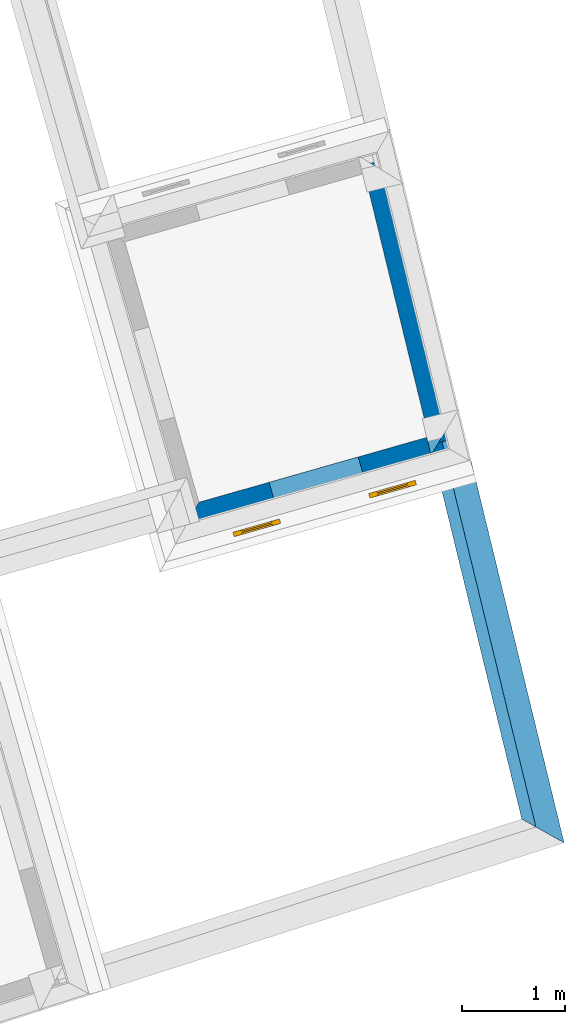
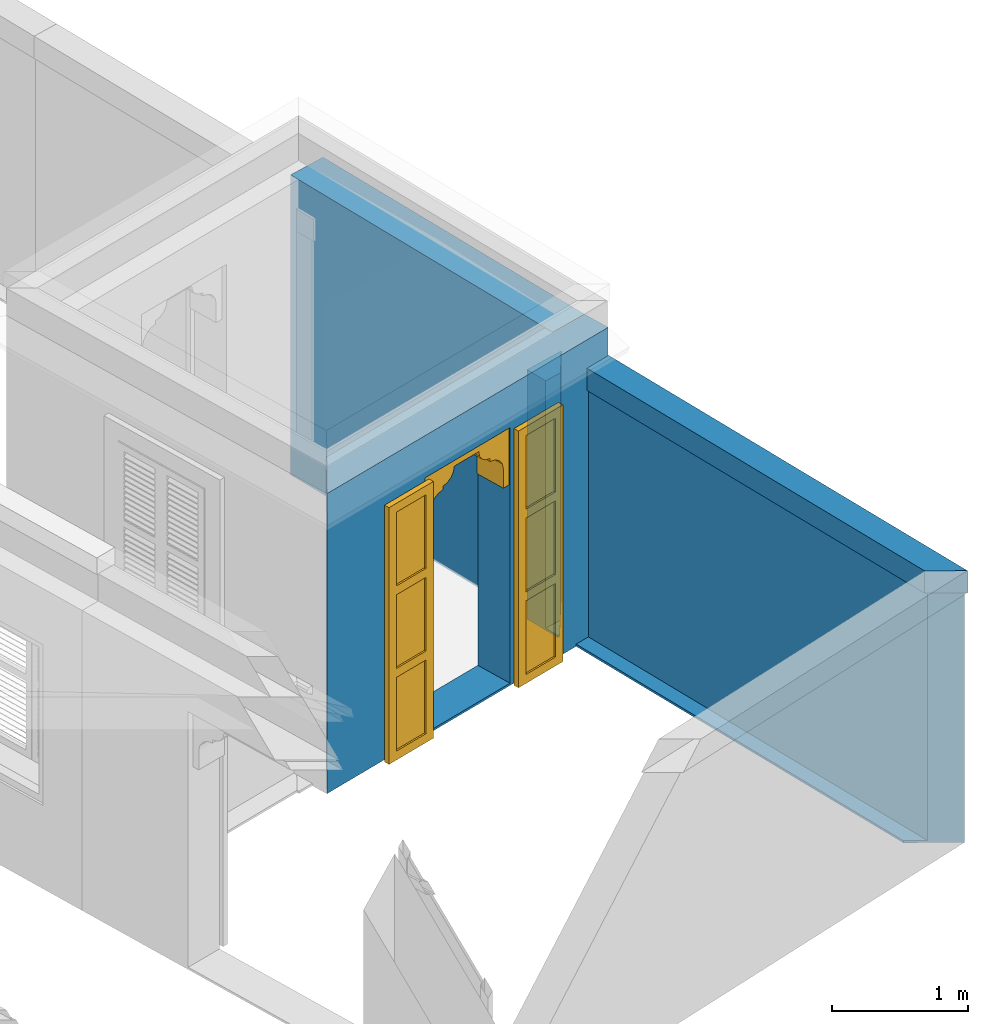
# One storey, part 6 of 13: 5 walls, 1 door, 1 opening.
"""IFC4 building model written with IfcOpenShell, lengths in metres."""

from ifc_helpers import new_model, si_unit, frame, origin, origin_with_axes, place, context, subcontext, project, spatial, polyline, outline, extrude, clip, halfspace, faceted_brep, source, transform, mapped, material, layer, layer_set, layer_usage, material_profile, profile_set, profile_usage, type_object, type_shapes, element, fill, save


model = new_model("IFC4")

# Units and contexts
model_context = context("Model", 3, world=origin_with_axes())
body_context = subcontext(model_context, "Body", "Model", "MODEL_VIEW")
ifc_project = project(units=[si_unit("PLANEANGLEUNIT", "RADIAN"), si_unit("MASSUNIT", "GRAM", prefix="KILO"), si_unit("FORCEUNIT", "NEWTON", prefix="KILO"), si_unit("LENGTHUNIT", "METRE"), si_unit("AREAUNIT", "SQUARE_METRE"), si_unit("VOLUMEUNIT", "CUBIC_METRE")], contexts=[model_context, model_context])

# Site, building, storey
site_placement = place(None, origin_with_axes())
site = spatial("IfcSite", under=ifc_project, at=site_placement, Name="Site plot-3", CompositionType="ELEMENT")
building_placement = place(None, origin_with_axes())
building = spatial("IfcBuilding", under=site, at=building_placement, Name="Building plot-3", CompositionType="ELEMENT")
storey_placement = place(None, frame((0.0, 0.0, 3.3), z_axis=(0.0, 0.0, 1.0), x_axis=(1.0, 0.0, 0.0)))
storey = spatial("IfcBuildingStorey", under=building, at=storey_placement, Name="plot-3 1", CompositionType="ELEMENT", Elevation=3.3)

# Wall, opening, door
ifc_material_1 = material(Name="Masonry")
ifc_layer_1 = layer(ifc_material_1, 0.33, ventilated=False)
ifc_layer_set_1 = layer_set([ifc_layer_1], Name="exterior_0.08_0.25")
ifc_layer_usage_1 = layer_usage(ifc_layer_set_1, "AXIS2", "POSITIVE", -0.25)
wall_type_1 = type_object("IfcWallType", Name="exterior_0.08_0.25", PredefinedType="SOLIDWALL", material=ifc_layer_set_1)
wall_1_placement = place(storey_placement, frame((14.0119539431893, 20.3860923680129, 0.0), z_axis=(0.0, 0.0, 1.0), x_axis=(0.961841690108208, 0.273606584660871, 0.0)))
wall_1 = element("IfcWall", 1, at=wall_1_placement, inside=storey, type_object=wall_type_1, material=ifc_layer_usage_1, Name="exterior", context=body_context, shape_type="SweptSolid", body=[
    extrude(outline(polyline([(0.0800000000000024, 0.0799999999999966), (-0.250000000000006, -0.249999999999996), (2.72842485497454, -0.249999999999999), (2.72842485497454, 0.0800000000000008), (0.0800000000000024, 0.0799999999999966)])), origin_with_axes(), (0.0, 0.0, 1.0), 2.7),
])
opening_placement = place(wall_1_placement, frame((0.789212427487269, 0.0, 0.02)))
opening = element("IfcOpeningElement", 2, at=opening_placement, cuts=wall_1, Name="My Opening", ObjectType="Opening", context=body_context, shape_type="SweptSolid", body=[
    extrude(outline(polyline([(0.0, -0.269999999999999), (0.900000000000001, -0.269999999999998), (0.900000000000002, 1.1), (6.66133814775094e-16, 1.1), (0.0, -0.269999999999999)])), origin_with_axes(), (0.0, 0.0, 1.0), 2.3),
])
door_type = type_object("IfcDoorType", Name="arch-900x2300", OperationType="SINGLE_SWING_LEFT", PredefinedType="NOTDEFINED")
shared_shape = source(origin(), body_context, "Body", "Brep", [
    faceted_brep([(-0.08, -0.02, 0.08), (-0.08, -0.02, 0.0), (-0.39, -0.02, 0.0), (-0.39, -0.02, 0.08), (-0.47, -0.02, 0.0), (-0.47, -0.02, 0.08), (-0.39, -0.035, 0.08), (-0.08, -0.035, 0.08), (0.0, -0.02, 0.08), (0.0, -0.02, 0.0), (-0.08, -0.066, 0.0), (-0.39, -0.066, 0.0), (-0.47, -0.066, 0.0), (-0.47, -0.066, 0.08), (-0.39, -0.02, 0.743333), (-0.47, -0.02, 0.743333), (-0.39, -0.035, 0.743333), (-0.08, -0.035, 0.743333), (-0.08, -0.02, 0.743333), (0.0, -0.02, 0.743333), (0.0, -0.066, 0.08), (0.0, -0.066, 0.0), (-0.39, -0.066, 0.08), (-0.08, -0.066, 0.08), (-0.47, -0.066, 0.743333), (-0.39, -0.02, 0.823333), (-0.47, -0.02, 0.823333), (0.0, -0.066, 0.743333), (0.0, -0.02, 0.823333), (-0.08, -0.02, 0.823333), (-0.08, -0.051, 0.08), (-0.39, -0.051, 0.08), (-0.39, -0.066, 0.743333), (-0.47, -0.066, 0.823333), (-0.39, -0.02, 1.486667), (-0.47, -0.02, 1.486667), (0.0, -0.066, 0.823333), (-0.08, -0.066, 0.743333), (0.0, -0.02, 1.486667), (-0.08, -0.02, 1.486667), (-0.08, -0.051, 0.743333), (-0.39, -0.051, 0.743333), (-0.39, -0.066, 0.823333), (-0.47, -0.066, 1.486667), (-0.39, -0.035, 0.823333), (-0.08, -0.035, 0.823333), (-0.39, -0.035, 1.486667), (-0.39, -0.02, 1.566667), (-0.47, -0.02, 1.566667), (0.0, -0.066, 1.486667), (-0.08, -0.066, 0.823333), (-0.08, -0.035, 1.486667), (0.0, -0.02, 1.566667), (-0.08, -0.02, 1.566667), (-0.39, -0.066, 1.486667), (-0.47, -0.066, 1.566667), (-0.39, -0.02, 2.23), (-0.47, -0.02, 2.23), (0.0, -0.066, 1.566667), (-0.08, -0.066, 1.486667), (0.0, -0.02, 2.23), (-0.08, -0.02, 2.23), (-0.08, -0.051, 0.823333), (-0.39, -0.051, 0.823333), (-0.39, -0.051, 1.486667), (-0.39, -0.066, 1.566667), (-0.47, -0.066, 2.23), (-0.39, -0.035, 1.566667), (-0.08, -0.035, 1.566667), (-0.39, -0.035, 2.23), (-0.39, -0.02, 2.31), (-0.47, -0.02, 2.31), (0.0, -0.066, 2.23), (-0.08, -0.066, 1.566667), (-0.08, -0.051, 1.486667), (-0.08, -0.035, 2.23), (0.0, -0.02, 2.31), (-0.08, -0.02, 2.31), (-0.39, -0.066, 2.23), (-0.47, -0.066, 2.31), (-0.39, -0.066, 2.31), (0.0, -0.066, 2.31), (-0.08, -0.066, 2.23), (-0.08, -0.066, 2.31), (-0.08, -0.051, 1.566667), (-0.39, -0.051, 1.566667), (-0.39, -0.051, 2.23), (-0.08, -0.051, 2.23), (1.29, -0.02, 0.08), (1.29, -0.02, 0.0), (0.98, -0.02, 0.0), (0.98, -0.02, 0.08), (1.37, -0.02, 0.08), (1.37, -0.02, 0.0), (0.98, -0.035, 0.08), (1.29, -0.035, 0.08), (0.9, -0.02, 0.0), (0.9, -0.02, 0.08), (1.29, -0.066, 0.0), (0.98, -0.066, 0.0), (1.37, -0.066, 0.08), (1.37, -0.066, 0.0), (1.37, -0.02, 0.743333), (1.29, -0.02, 0.743333), (1.29, -0.035, 0.743333), (0.98, -0.035, 0.743333), (0.98, -0.02, 0.743333), (0.9, -0.02, 0.743333), (0.9, -0.066, 0.0), (0.9, -0.066, 0.08), (0.98, -0.066, 0.08), (1.29, -0.066, 0.08), (1.37, -0.066, 0.743333), (1.37, -0.02, 0.823333), (1.29, -0.02, 0.823333), (0.9, -0.066, 0.743333), (0.98, -0.02, 0.823333), (0.9, -0.02, 0.823333), (1.29, -0.051, 0.08), (0.98, -0.051, 0.08), (1.29, -0.066, 0.743333), (1.37, -0.066, 0.823333), (1.37, -0.02, 1.486667), (1.29, -0.02, 1.486667), (0.9, -0.066, 0.823333), (0.98, -0.066, 0.743333), (0.98, -0.02, 1.486667), (0.9, -0.02, 1.486667), (0.98, -0.051, 0.743333), (1.29, -0.051, 0.743333), (1.29, -0.066, 0.823333), (1.37, -0.066, 1.486667), (0.98, -0.035, 0.823333), (1.29, -0.035, 0.823333), (1.29, -0.035, 1.486667), (1.37, -0.02, 1.566667), (1.29, -0.02, 1.566667), (0.9, -0.066, 1.486667), (0.98, -0.066, 0.823333), (0.98, -0.035, 1.486667), (0.98, -0.02, 1.566667), (0.9, -0.02, 1.566667), (1.29, -0.066, 1.486667), (1.37, -0.066, 1.566667), (1.37, -0.02, 2.23), (1.29, -0.02, 2.23), (0.9, -0.066, 1.566667), (0.98, -0.066, 1.486667), (0.98, -0.02, 2.23), (0.9, -0.02, 2.23), (1.29, -0.051, 0.823333), (0.98, -0.051, 0.823333), (1.29, -0.051, 1.486667), (1.29, -0.066, 1.566667), (1.37, -0.066, 2.23), (0.98, -0.035, 1.566667), (1.29, -0.035, 1.566667), (1.29, -0.035, 2.23), (1.37, -0.02, 2.31), (1.29, -0.02, 2.31), (0.9, -0.066, 2.23), (0.98, -0.066, 1.566667), (0.98, -0.051, 1.486667), (0.98, -0.035, 2.23), (0.98, -0.02, 2.31), (0.9, -0.02, 2.31), (1.29, -0.066, 2.23), (1.37, -0.066, 2.31), (1.29, -0.066, 2.31), (0.9, -0.066, 2.31), (0.98, -0.066, 2.23), (0.98, -0.066, 2.31), (1.29, -0.051, 1.566667), (0.98, -0.051, 1.566667), (1.29, -0.051, 2.23), (0.98, -0.051, 2.23), (0.9, 0.03, 1.78), (0.9, 0.03, 1.95), (0.84, 0.03, 1.95), (0.84, 0.03, 1.78), (0.84, 0.3, 1.95), (0.84, 0.3, 1.78), (0.9, 0.03, 2.12), (0.829, 0.03, 2.004), (0.9, 0.3, 1.78), (0.9, 0.3, 1.95), (0.829, 0.3, 2.004), (0.799, 0.03, 2.049), (0.9, 0.3, 2.12), (0.799, 0.3, 2.049), (0.754, 0.03, 2.079), (0.9, 0.3, 2.29), (0.9, 0.03, 2.29), (0.754, 0.3, 2.079), (0.7, 0.03, 2.09), (0.7, 0.03, 2.12), (0.654, 0.03, 2.129), (0.58, 0.3, 2.29), (0.58, 0.03, 2.29), (0.7, 0.3, 2.12), (0.654, 0.3, 2.129), (0.7, 0.3, 2.09), (0.615, 0.03, 2.155), (0.589, 0.3, 2.194), (0.58, 0.3, 2.24), (0.58, 0.03, 2.24), (0.589, 0.03, 2.194), (0.615, 0.3, 2.155), (0.06, 0.03, 1.78), (0.06, 0.03, 1.95), (0.0, 0.03, 1.95), (0.0, 0.03, 1.78), (0.06, 0.3, 1.78), (0.06, 0.3, 1.95), (0.071, 0.03, 2.004), (0.0, 0.03, 2.12), (0.0, 0.3, 1.95), (0.0, 0.3, 1.78), (0.071, 0.3, 2.004), (0.101, 0.03, 2.049), (0.0, 0.3, 2.12), (0.101, 0.3, 2.049), (0.146, 0.03, 2.079), (0.0, 0.03, 2.29), (0.0, 0.3, 2.29), (0.146, 0.3, 2.079), (0.2, 0.03, 2.12), (0.2, 0.03, 2.09), (0.246, 0.03, 2.129), (0.32, 0.03, 2.29), (0.32, 0.3, 2.29), (0.246, 0.3, 2.129), (0.2, 0.3, 2.12), (0.2, 0.3, 2.09), (0.285, 0.03, 2.155), (0.32, 0.3, 2.24), (0.311, 0.3, 2.194), (0.311, 0.03, 2.194), (0.32, 0.03, 2.24), (0.285, 0.3, 2.155)], [[[0, 1, 2, 3]], [[4, 5, 3, 2]], [[0, 3, 6, 7]], [[1, 0, 8, 9]], [[2, 1, 10, 11]], [[5, 4, 12, 13]], [[14, 3, 5, 15]], [[4, 2, 11, 12]], [[3, 14, 16, 6]], [[6, 16, 17, 7]], [[18, 0, 7, 17]], [[0, 18, 19, 8]], [[9, 8, 20, 21]], [[1, 9, 21, 10]], [[22, 11, 10, 23]], [[13, 12, 11, 22]], [[15, 5, 13, 24]], [[25, 14, 15, 26]], [[14, 18, 17, 16]], [[8, 19, 27, 20]], [[28, 19, 18, 29]], [[23, 10, 21, 20]], [[22, 23, 30, 31]], [[22, 32, 24, 13]], [[26, 15, 24, 33]], [[29, 18, 14, 25]], [[34, 25, 26, 35]], [[19, 28, 36, 27]], [[20, 27, 37, 23]], [[38, 28, 29, 39]], [[23, 37, 40, 30]], [[41, 31, 30, 40]], [[32, 22, 31, 41]], [[32, 42, 33, 24]], [[35, 26, 33, 43]], [[29, 25, 44, 45]], [[25, 34, 46, 44]], [[47, 34, 35, 48]], [[28, 38, 49, 36]], [[27, 36, 50, 37]], [[39, 29, 45, 51]], [[52, 38, 39, 53]], [[37, 32, 41, 40]], [[37, 50, 42, 32]], [[42, 54, 43, 33]], [[48, 35, 43, 55]], [[44, 46, 51, 45]], [[34, 39, 51, 46]], [[34, 47, 53, 39]], [[56, 47, 48, 57]], [[38, 52, 58, 49]], [[36, 49, 59, 50]], [[60, 52, 53, 61]], [[42, 50, 62, 63]], [[54, 42, 63, 64]], [[54, 65, 55, 43]], [[57, 48, 55, 66]], [[53, 47, 67, 68]], [[47, 56, 69, 67]], [[70, 56, 57, 71]], [[52, 60, 72, 58]], [[49, 58, 73, 59]], [[50, 59, 74, 62]], [[61, 53, 68, 75]], [[76, 60, 61, 77]], [[64, 63, 62, 74]], [[59, 54, 64, 74]], [[65, 54, 59, 73]], [[65, 78, 66, 55]], [[71, 57, 66, 79]], [[67, 69, 75, 68]], [[56, 61, 75, 69]], [[77, 61, 56, 70]], [[70, 71, 79, 80]], [[60, 76, 81, 72]], [[58, 72, 82, 73]], [[76, 77, 83, 81]], [[65, 73, 84, 85]], [[78, 65, 85, 86]], [[78, 80, 79, 66]], [[77, 70, 80, 83]], [[72, 81, 83, 82]], [[73, 82, 87, 84]], [[86, 85, 84, 87]], [[82, 78, 86, 87]], [[82, 83, 80, 78]], [[88, 89, 90, 91]], [[89, 88, 92, 93]], [[94, 95, 88, 91]], [[96, 97, 91, 90]], [[98, 99, 90, 89]], [[100, 101, 93, 92]], [[102, 92, 88, 103]], [[101, 98, 89, 93]], [[95, 104, 103, 88]], [[94, 105, 104, 95]], [[105, 94, 91, 106]], [[97, 107, 106, 91]], [[108, 109, 97, 96]], [[99, 108, 96, 90]], [[110, 99, 98, 111]], [[111, 98, 101, 100]], [[112, 100, 92, 102]], [[113, 102, 103, 114]], [[104, 105, 106, 103]], [[109, 115, 107, 97]], [[116, 106, 107, 117]], [[109, 108, 99, 110]], [[118, 119, 110, 111]], [[100, 112, 120, 111]], [[121, 112, 102, 113]], [[114, 103, 106, 116]], [[122, 113, 114, 123]], [[115, 124, 117, 107]], [[110, 125, 115, 109]], [[126, 116, 117, 127]], [[119, 128, 125, 110]], [[128, 119, 118, 129]], [[129, 118, 111, 120]], [[112, 121, 130, 120]], [[131, 121, 113, 122]], [[132, 133, 114, 116]], [[133, 134, 123, 114]], [[135, 122, 123, 136]], [[124, 137, 127, 117]], [[125, 138, 124, 115]], [[139, 132, 116, 126]], [[140, 126, 127, 141]], [[128, 129, 120, 125]], [[120, 130, 138, 125]], [[121, 131, 142, 130]], [[143, 131, 122, 135]], [[132, 139, 134, 133]], [[134, 139, 126, 123]], [[126, 140, 136, 123]], [[144, 135, 136, 145]], [[137, 146, 141, 127]], [[138, 147, 137, 124]], [[148, 140, 141, 149]], [[150, 151, 138, 130]], [[152, 150, 130, 142]], [[131, 143, 153, 142]], [[154, 143, 135, 144]], [[155, 156, 136, 140]], [[156, 157, 145, 136]], [[158, 144, 145, 159]], [[146, 160, 149, 141]], [[147, 161, 146, 137]], [[151, 162, 147, 138]], [[163, 155, 140, 148]], [[164, 148, 149, 165]], [[162, 151, 150, 152]], [[162, 152, 142, 147]], [[161, 147, 142, 153]], [[143, 154, 166, 153]], [[167, 154, 144, 158]], [[155, 163, 157, 156]], [[157, 163, 148, 145]], [[159, 145, 148, 164]], [[168, 167, 158, 159]], [[160, 169, 165, 149]], [[161, 170, 160, 146]], [[169, 171, 164, 165]], [[172, 173, 161, 153]], [[174, 172, 153, 166]], [[154, 167, 168, 166]], [[171, 168, 159, 164]], [[170, 171, 169, 160]], [[173, 175, 170, 161]], [[175, 173, 172, 174]], [[175, 174, 166, 170]], [[166, 168, 171, 170]], [[176, 177, 178, 179]], [[180, 181, 179, 178]], [[177, 182, 183, 178]], [[177, 176, 184, 185]], [[181, 184, 176, 179]], [[181, 180, 185, 184]], [[186, 180, 178, 183]], [[182, 187, 183]], [[182, 177, 185, 188]], [[180, 186, 188, 185]], [[189, 186, 183, 187]], [[182, 190, 187]], [[188, 191, 192, 182]], [[188, 186, 189]], [[193, 189, 187, 190]], [[194, 190, 182, 195]], [[182, 192, 196, 195]], [[192, 191, 197, 198]], [[199, 200, 191, 188]], [[188, 189, 193]], [[201, 193, 190, 194]], [[199, 201, 194, 195]], [[200, 199, 195, 196]], [[192, 202, 196]], [[191, 203, 204, 197]], [[192, 198, 205, 206]], [[207, 191, 200]], [[199, 188, 193, 201]], [[207, 200, 196, 202]], [[192, 206, 202]], [[204, 203, 206, 205]], [[203, 191, 207]], [[203, 207, 202, 206]], [[208, 209, 210, 211]], [[209, 208, 212, 213]], [[209, 214, 215, 210]], [[211, 210, 216, 217]], [[208, 211, 217, 212]], [[217, 216, 213, 212]], [[214, 209, 213, 218]], [[214, 219, 215]], [[220, 216, 210, 215]], [[216, 220, 218, 213]], [[219, 214, 218, 221]], [[219, 222, 215]], [[215, 223, 224, 220]], [[221, 218, 220]], [[222, 219, 221, 225]], [[226, 215, 222, 227]], [[226, 228, 223, 215]], [[229, 230, 224, 223]], [[220, 224, 231, 232]], [[225, 221, 220]], [[227, 222, 225, 233]], [[226, 227, 233, 232]], [[228, 226, 232, 231]], [[228, 234, 223]], [[230, 235, 236, 224]], [[237, 238, 229, 223]], [[231, 224, 239]], [[233, 225, 220, 232]], [[234, 228, 231, 239]], [[234, 237, 223]], [[238, 237, 236, 235]], [[239, 224, 236]], [[237, 234, 239, 236]], [[238, 235, 204, 205]], [[235, 230, 197, 204]], [[229, 238, 205, 198]], [[230, 229, 198, 197]]]),
])
type_shapes(door_type, [shared_shape])
door_placement = place(storey_placement, frame((14.8449251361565, 20.3423288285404, 0.02), z_axis=(0.0, 0.0, 1.0), x_axis=(0.865657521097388, 0.246245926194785, 0.0)))
door = element("IfcDoor", 3, at=door_placement, inside=storey, type_object=door_type, Name="circulation sahn door", OverallHeight=2.3, OverallWidth=0.9, context=body_context, shape_type="MappedRepresentation", body=[
    mapped(shared_shape, transform((0.0, 0.0, 0.0), scale=1.0)),
])
fill(opening, door)

# Walls
ifc_material_2 = material(Name="Masonry")
ifc_layer_2 = layer(ifc_material_2, 0.33, ventilated=False)
ifc_layer_set_2 = layer_set([ifc_layer_2], Name="party_0.08_0.25")
ifc_layer_usage_2 = layer_usage(ifc_layer_set_2, "AXIS2", "POSITIVE", -0.25)
wall_type_2 = type_object("IfcWallType", Name="party_0.08_0.25", PredefinedType="SOLIDWALL", material=ifc_layer_set_2)
wall_2_placement = place(storey_placement, frame((16.3958062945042, 21.0642057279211, 0.0), z_axis=(0.0, 0.0, 1.0), x_axis=(-0.236608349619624, 0.97160510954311, 0.0)))
element("IfcWall", 4, at=wall_2_placement, inside=storey, type_object=wall_type_2, material=ifc_layer_usage_2, Name="party", context=body_context, shape_type="SweptSolid", body=[
    extrude(outline(polyline([(1.39045692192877e-15, 0.0799999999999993), (1.79166492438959e-15, -0.249999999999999), (2.79305572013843, -0.250000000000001), (2.79305572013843, 0.0799999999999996), (1.39045692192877e-15, 0.0799999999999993)])), origin_with_axes(), (0.0, 0.0, 1.0), 2.7),
])
ifc_material_profile_1 = material_profile(None, outline(polyline([(0.25, 0.0), (0.25, 2.245), (0.05, 2.245), (0.05, 0.02), (-0.08, 0.02), (-0.08, 0.0), (0.25, 0.0)])))
ifc_profile_set_1 = profile_set([ifc_material_profile_1])
ifc_profile_usage_1 = profile_usage(ifc_profile_set_1)
wall_type_3 = type_object("IfcWallType", Name="parapet party_0", PredefinedType="PARAPET", material=ifc_profile_set_1)
wall_3_placement = place(storey_placement, frame((16.1591979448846, 22.0358108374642, 0.0), z_axis=(0.236608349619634, -0.971605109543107, 0.0), x_axis=(0.971605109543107, 0.236608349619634, 0.0)))
element("IfcWall", 5, at=wall_3_placement, inside=storey, type_object=wall_type_3, material=ifc_profile_usage_1, Name="parapet party_0", context=body_context, shape_type="Clipping", body=[
    clip(clip(extrude(outline(polyline([(0.25, 0.0), (0.25, 2.245), (0.05, 2.245), (0.05, 0.02), (-0.08, 0.02), (-0.08, 0.0), (0.25, 0.0)])), origin_with_axes(), (0.0, 0.0, 1.0), 5.81947382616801), halfspace(frame((0.0, 0.0, 4.81947382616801), z_axis=(0.681389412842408, 0.0, -0.73192108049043), x_axis=(0.0, 1.0, 0.0)), True)), halfspace(frame((0.0, 0.0, 1.0), z_axis=(-0.707106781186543, 0.0, -0.707106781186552), x_axis=(0.0, 1.0, 0.0)), False)),
])
ifc_profile_usage_2 = profile_usage(ifc_profile_set_1)
wall_4_placement = place(storey_placement, frame((15.3270406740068, 20.8039365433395, 0.0), z_axis=(0.97160510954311, 0.236608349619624, 0.0), x_axis=(-0.236608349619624, 0.97160510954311, 0.0)))
element("IfcWall", 6, at=wall_4_placement, inside=storey, type_object=wall_type_3, material=ifc_profile_usage_2, Name="parapet party_0", context=body_context, shape_type="Clipping", body=[
    clip(clip(extrude(outline(polyline([(0.25, 0.0), (0.25, 2.245), (0.05, 2.245), (0.05, 0.02), (-0.08, 0.02), (-0.08, 0.0), (0.25, 0.0)])), origin_with_axes(), (0.0, 0.0, 1.0), 2.1), halfspace(frame((0.0, 0.0, 1.1), z_axis=(0.707106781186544, 0.0, -0.707106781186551), x_axis=(0.0, 1.0, 0.0)), True)), halfspace(frame((0.0, 0.0, 1.0), z_axis=(8.26946079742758e-16, 0.0, -1.0), x_axis=(0.0, 1.0, 0.0)), False)),
])
ifc_material_profile_2 = material_profile(None, outline(polyline([(0.265, 2.245), (0.265, 2.445), (0.035, 2.445), (0.035, 2.245), (0.265, 2.245)])))
ifc_profile_set_2 = profile_set([ifc_material_profile_2])
ifc_profile_usage_3 = profile_usage(ifc_profile_set_2)
wall_type_4 = type_object("IfcWallType", Name="parapet party_1", PredefinedType="PARAPET", material=ifc_profile_set_2)
wall_5_placement = place(storey_placement, frame((16.1591979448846, 22.0358108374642, 0.0), z_axis=(0.236608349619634, -0.971605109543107, 0.0), x_axis=(0.971605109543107, 0.236608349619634, 0.0)))
element("IfcWall", 7, at=wall_5_placement, inside=storey, type_object=wall_type_4, material=ifc_profile_usage_3, Name="parapet party_1", context=body_context, shape_type="Clipping", body=[
    clip(clip(extrude(outline(polyline([(0.265, 2.245), (0.265, 2.445), (0.035, 2.445), (0.035, 2.245), (0.265, 2.245)])), origin_with_axes(), (0.0, 0.0, 1.0), 5.81947382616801), halfspace(frame((0.0, 0.0, 4.81947382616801), z_axis=(0.681389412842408, 0.0, -0.73192108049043), x_axis=(0.0, 1.0, 0.0)), True)), halfspace(frame((0.0, 0.0, 1.0), z_axis=(-0.707106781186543, 0.0, -0.707106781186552), x_axis=(0.0, 1.0, 0.0)), False)),
])

save(model, "model.ifc")
